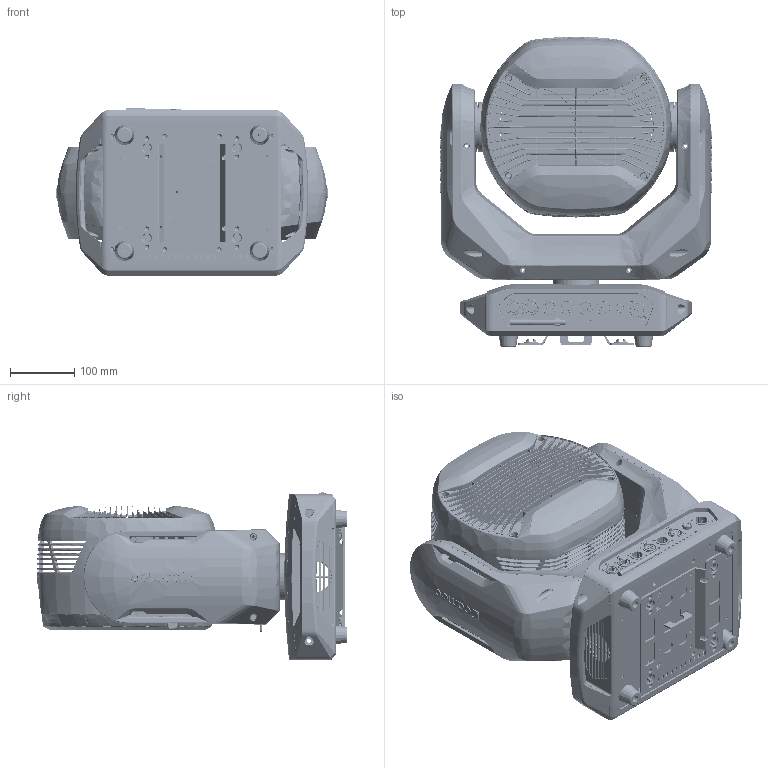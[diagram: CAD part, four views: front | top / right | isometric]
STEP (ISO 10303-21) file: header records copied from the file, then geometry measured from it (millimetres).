
FILE_DESCRIPTION(('HOOPS Exchange Step'),'2;1');
FILE_NAME('E:\cdb\hoops_acs\acs\9788\78273\013158-4-Light Fixture.step','2024-06-13T12:45:05+02:00',('caddok'),('Unknown organisation'),'HOOPS Exchange 2024.0','HOOPS Exchange','Unknown authorisation');
FILE_SCHEMA( ('AP242_MANAGED_MODEL_BASED_3D_ENGINEERING_MIM_LF {1 0 10303 442 1 1 4 }') );
Length unit declared in the file: millimetre
Products named in the file (2): Standard; 013158-4-Light Fixture
Assembly tree (1 placements, depth 2):
  013158-4-Light Fixture
    Standard
Bounding box: 422.02 x 482.48 x 260.09 mm (x, y, z)
Topology: 68 solids, 71 shells, 14040 faces, 37052 edges, 23061 vertices
Faces by surface type: bspline 5288, plane 4337, cylinder 2457, torus 630, cone 625, extrusion 616, sphere 87
Full cylindrical faces by diameter (mm): 4 x4
Entity records: 876632 total; most frequent: CARTESIAN_POINT 572732, ORIENTED_EDGE 73944, DIRECTION 46651, EDGE_CURVE 36980, VERTEX_POINT 23062, AXIS2_PLACEMENT_3D 16532, B_SPLINE_CURVE_WITH_KNOTS 16255, EDGE_LOOP 15066
